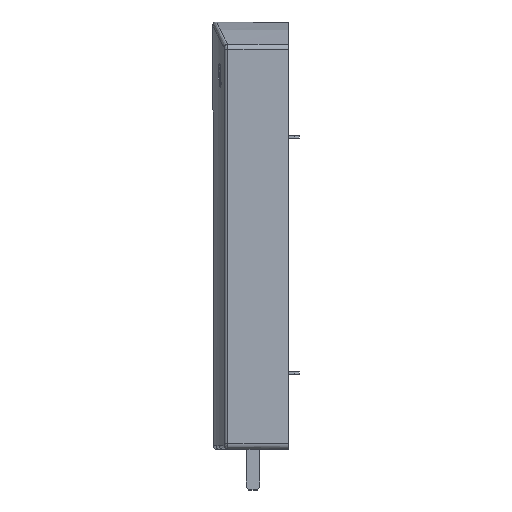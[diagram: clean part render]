
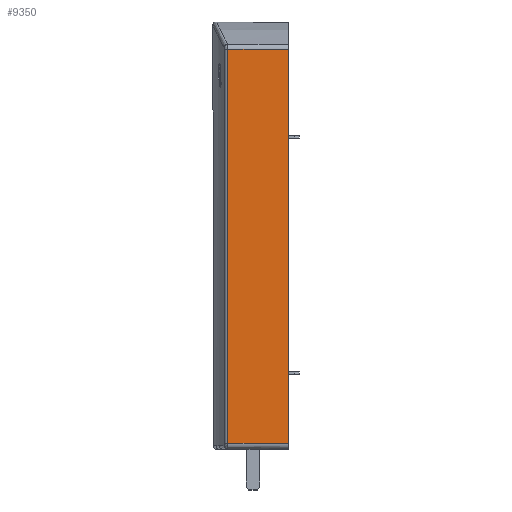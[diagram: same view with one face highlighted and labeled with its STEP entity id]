
A CAD part, top view. The second image highlights one B-rep face of the part: STEP entity #9350.
In plain terms, the highlighted planar face has unit normal (0, 0, 1).
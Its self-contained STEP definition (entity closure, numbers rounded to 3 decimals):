
#620 = EDGE_CURVE ( 'NONE', #11427, #11423, #7502, .T. ) ;
#2088 = CARTESIAN_POINT ( 'NONE',  ( -41.001, 207.096, 22.754 ) ) ;
#2090 = FACE_OUTER_BOUND ( 'NONE', #13420, .T. ) ;
#2091 = LINE ( 'NONE', #2095, #12892 ) ;
#2095 = CARTESIAN_POINT ( 'NONE',  ( -41.001, -6.062, 22.754 ) ) ;
#2097 = DIRECTION ( 'NONE',  ( 1., 0., 0. ) ) ;
#2099 = LINE ( 'NONE', #2125, #12898 ) ;
#2101 = CARTESIAN_POINT ( 'NONE',  ( -41.001, 207.096, 22.754 ) ) ;
#2103 = LINE ( 'NONE', #2101, #12897 ) ;
#2105 = PLANE ( 'NONE',  #10862 ) ;
#2111 = DIRECTION ( 'NONE',  ( 0., 0., 1. ) ) ;
#2113 = DIRECTION ( 'NONE',  ( -1., 0., 0. ) ) ;
#2123 = DIRECTION ( 'NONE',  ( 1., 0., 0. ) ) ;
#2125 = CARTESIAN_POINT ( 'NONE',  ( -32.709, 207.096, 22.754 ) ) ;
#2130 = DIRECTION ( 'NONE',  ( 0., 1., 0. ) ) ;
#5682 = EDGE_CURVE ( 'NONE', #11470, #11427, #2091, .T. ) ;
#5684 = EDGE_CURVE ( 'NONE', #11473, #11423, #2103, .T. ) ;
#5685 = EDGE_CURVE ( 'NONE', #11470, #11473, #2099, .T. ) ;
#6253 = CARTESIAN_POINT ( 'NONE',  ( 0., 207.096, 22.754 ) ) ;
#6256 = CARTESIAN_POINT ( 'NONE',  ( 0., -6.062, 22.754 ) ) ;
#6297 = CARTESIAN_POINT ( 'NONE',  ( -32.709, -6.062, 22.754 ) ) ;
#6300 = CARTESIAN_POINT ( 'NONE',  ( -32.709, 207.096, 22.754 ) ) ;
#7502 = LINE ( 'NONE', #7503, #12457 ) ;
#7503 = CARTESIAN_POINT ( 'NONE',  ( 0., 207.096, 22.754 ) ) ;
#7504 = DIRECTION ( 'NONE',  ( 0., 1., 0. ) ) ;
#9350 = ADVANCED_FACE ( 'NONE', ( #2090 ), #2105, .T. ) ;
#9517 = ORIENTED_EDGE ( 'NONE', *, *, #5682, .T. ) ;
#9518 = ORIENTED_EDGE ( 'NONE', *, *, #620, .T. ) ;
#9519 = ORIENTED_EDGE ( 'NONE', *, *, #5684, .F. ) ;
#9520 = ORIENTED_EDGE ( 'NONE', *, *, #5685, .F. ) ;
#10862 = AXIS2_PLACEMENT_3D ( 'NONE', #2088, #2111, #2113 ) ;
#11423 = VERTEX_POINT ( 'NONE', #6253 ) ;
#11427 = VERTEX_POINT ( 'NONE', #6256 ) ;
#11470 = VERTEX_POINT ( 'NONE', #6297 ) ;
#11473 = VERTEX_POINT ( 'NONE', #6300 ) ;
#12457 = VECTOR ( 'NONE', #7504, 1000. ) ;
#12892 = VECTOR ( 'NONE', #2097, 1000. ) ;
#12897 = VECTOR ( 'NONE', #2123, 1000. ) ;
#12898 = VECTOR ( 'NONE', #2130, 1000. ) ;
#13420 = EDGE_LOOP ( 'NONE', ( #9517, #9518, #9519, #9520 ) ) ;
